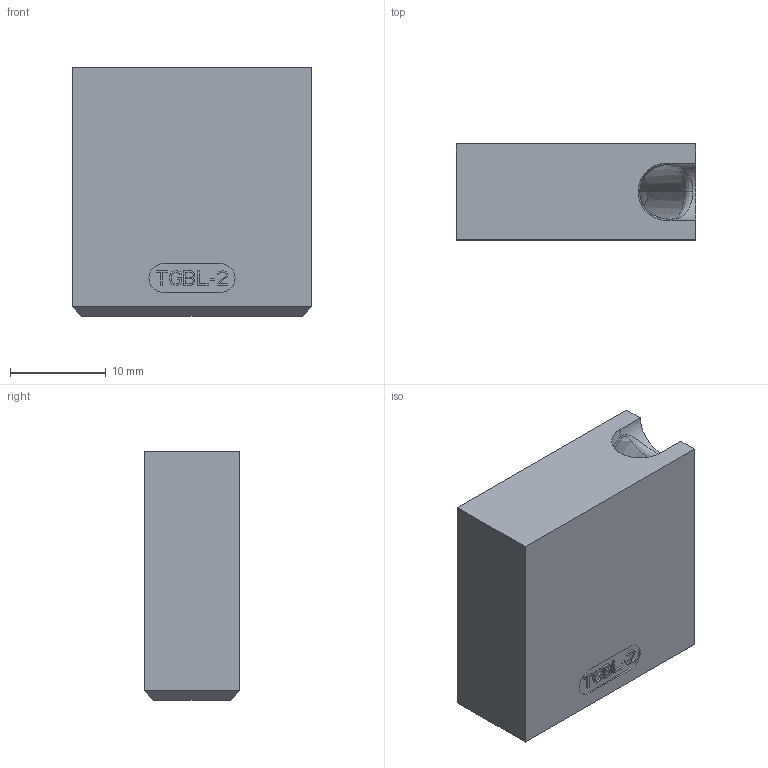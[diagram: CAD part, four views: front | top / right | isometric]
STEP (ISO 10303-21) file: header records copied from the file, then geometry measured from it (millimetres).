
FILE_DESCRIPTION((''),'2;1');
FILE_NAME('TGBL-2_EXPORT','2026-08-12T14:27:59',('gsawatzky'),(''),'CREO PARAMETRIC BY PTC INC, 2021304','CREO PARAMETRIC BY PTC INC, 2021304','');
FILE_SCHEMA(('AUTOMOTIVE_DESIGN { 1 0 10303 214 1 1 1 1 }'));
Length unit declared in the file: millimetre
Products named in the file (1): TGBL-2_EXPORT
Bounding box: 25 x 10 x 26 mm (x, y, z)
Volume: 5867.1 mm3; surface area: 2915.6 mm2
Topology: 1 solids, 4 shells, 211 faces, 581 edges, 377 vertices
Faces by surface type: plane 171, bspline 14, sphere 9, cylinder 9, cone 4, extrusion 2, torus 2
Entity records: 10374 total; most frequent: CARTESIAN_POINT 3271, ORIENTED_EDGE 1136, DIRECTION 981, PRESENTATION_STYLE_ASSIGNMENT 576, STYLED_ITEM 576, CURVE_STYLE 572, EDGE_CURVE 572, VECTOR 491
